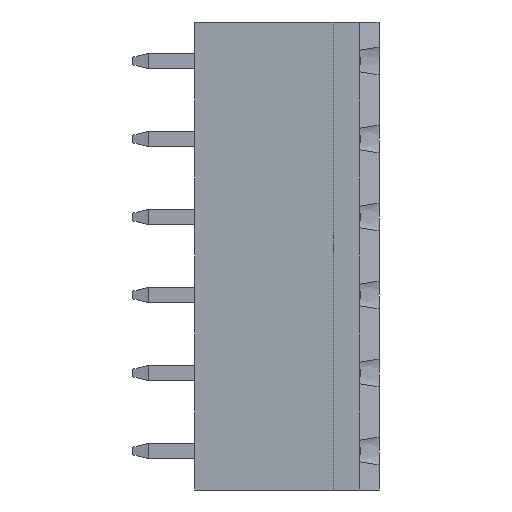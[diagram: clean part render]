
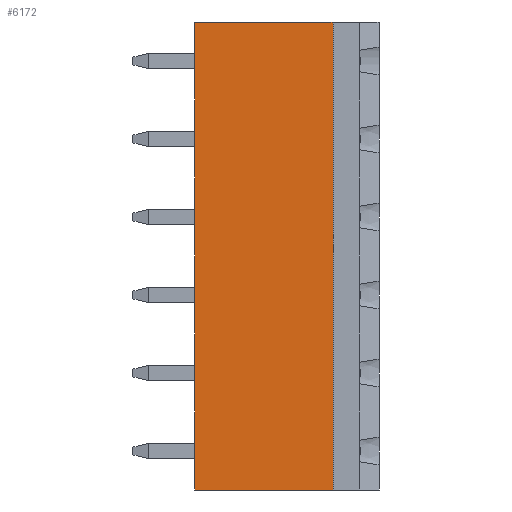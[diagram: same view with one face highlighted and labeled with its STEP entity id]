
A CAD part, left-side view. The second image highlights one B-rep face of the part: STEP entity #6172.
In plain terms, the highlighted planar face has unit normal (-1, 0, 0).
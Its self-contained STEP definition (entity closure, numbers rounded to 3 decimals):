
#712 = CARTESIAN_POINT ( 'NONE',  ( -3.9, 12., 0. ) ) ;
#1645 = ORIENTED_EDGE ( 'NONE', *, *, #6547, .F. ) ;
#1748 = EDGE_LOOP ( 'NONE', ( #6226, #14217, #7426, #1645 ) ) ;
#1918 = EDGE_CURVE ( 'NONE', #11709, #15041, #11066, .T. ) ;
#2055 = VECTOR ( 'NONE', #9906, 1000. ) ;
#2111 = VERTEX_POINT ( 'NONE', #12865 ) ;
#3045 = CARTESIAN_POINT ( 'NONE',  ( -3.9, 12., 0. ) ) ;
#4204 = CARTESIAN_POINT ( 'NONE',  ( -3.9, 3., 0. ) ) ;
#4229 = DIRECTION ( 'NONE',  ( -1., 0., 0. ) ) ;
#4350 = VECTOR ( 'NONE', #7809, 1000. ) ;
#4424 = CARTESIAN_POINT ( 'NONE',  ( -3.9, 12., 30.48 ) ) ;
#5309 = CARTESIAN_POINT ( 'NONE',  ( -3.9, 3., 30.48 ) ) ;
#6172 = ADVANCED_FACE ( 'NONE', ( #14600 ), #6328, .T. ) ;
#6226 = ORIENTED_EDGE ( 'NONE', *, *, #13562, .T. ) ;
#6328 = PLANE ( 'NONE',  #10543 ) ;
#6547 = EDGE_CURVE ( 'NONE', #14499, #2111, #6559, .T. ) ;
#6559 = LINE ( 'NONE', #712, #2055 ) ;
#6990 = DIRECTION ( 'NONE',  ( 0., -1., 0. ) ) ;
#7426 = ORIENTED_EDGE ( 'NONE', *, *, #9636, .F. ) ;
#7624 = CARTESIAN_POINT ( 'NONE',  ( -3.9, 3., 30.48 ) ) ;
#7809 = DIRECTION ( 'NONE',  ( 0., -1., 0. ) ) ;
#7876 = DIRECTION ( 'NONE',  ( 0., 0., -1. ) ) ;
#9403 = LINE ( 'NONE', #4424, #13442 ) ;
#9636 = EDGE_CURVE ( 'NONE', #2111, #11709, #9403, .T. ) ;
#9906 = DIRECTION ( 'NONE',  ( 0., 0., 1. ) ) ;
#10543 = AXIS2_PLACEMENT_3D ( 'NONE', #13667, #4229, #12413 ) ;
#10621 = CARTESIAN_POINT ( 'NONE',  ( -3.9, 12., 0. ) ) ;
#11066 = LINE ( 'NONE', #5309, #13363 ) ;
#11709 = VERTEX_POINT ( 'NONE', #7624 ) ;
#12413 = DIRECTION ( 'NONE',  ( 0., 0., 1. ) ) ;
#12865 = CARTESIAN_POINT ( 'NONE',  ( -3.9, 12., 30.48 ) ) ;
#13363 = VECTOR ( 'NONE', #7876, 1000. ) ;
#13442 = VECTOR ( 'NONE', #6990, 1000. ) ;
#13562 = EDGE_CURVE ( 'NONE', #14499, #15041, #14536, .T. ) ;
#13667 = CARTESIAN_POINT ( 'NONE',  ( -3.9, 12., 0. ) ) ;
#14217 = ORIENTED_EDGE ( 'NONE', *, *, #1918, .F. ) ;
#14499 = VERTEX_POINT ( 'NONE', #10621 ) ;
#14536 = LINE ( 'NONE', #3045, #4350 ) ;
#14600 = FACE_OUTER_BOUND ( 'NONE', #1748, .T. ) ;
#15041 = VERTEX_POINT ( 'NONE', #4204 ) ;
